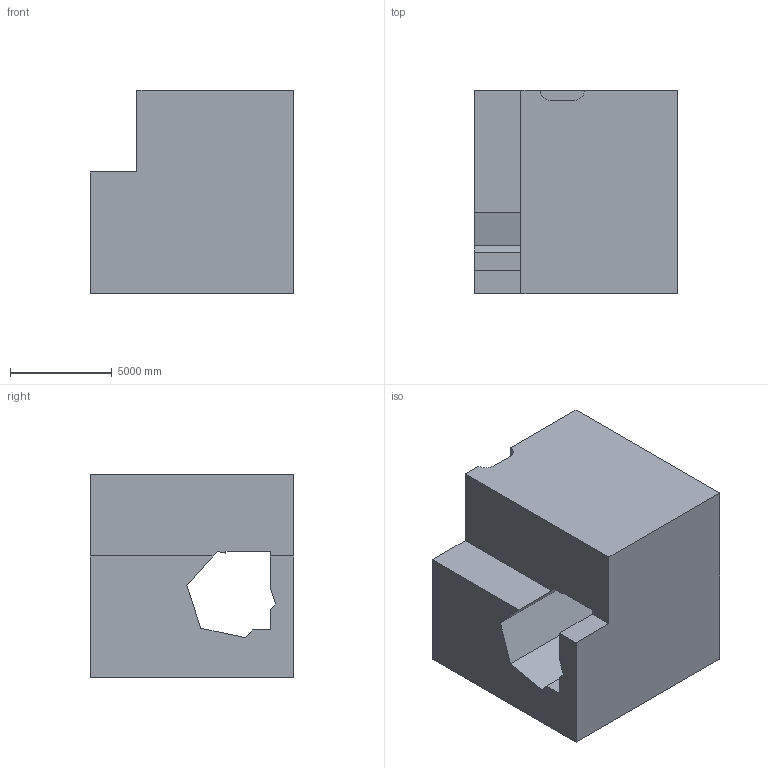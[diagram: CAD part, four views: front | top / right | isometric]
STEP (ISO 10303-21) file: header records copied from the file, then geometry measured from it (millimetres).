
FILE_DESCRIPTION (( 'STEP AP203' ), '1' );
FILE_NAME ('131.STEP', '2022-09-06T15:09:53', ( 'user' ), ( '' ), 'SwSTEP 2.0', 'SolidWorks 2021', '' );
FILE_SCHEMA (( 'CONFIG_CONTROL_DESIGN' ));
Length unit declared in the file: centimetre
Products named in the file (1): 131
Bounding box: 10000 x 10000 x 10000 mm (x, y, z)
Volume: 762928805943.6 mm3; surface area: 688802162.9 mm2
Topology: 1 solids, 1 shells, 25 faces, 72 edges, 48 vertices
Faces by surface type: plane 23, cylinder 2
Entity records: 891 total; most frequent: CARTESIAN_POINT 146, ORIENTED_EDGE 144, DIRECTION 128, EDGE_CURVE 72, VECTOR 68, LINE 68, VERTEX_POINT 48, AXIS2_PLACEMENT_3D 30
